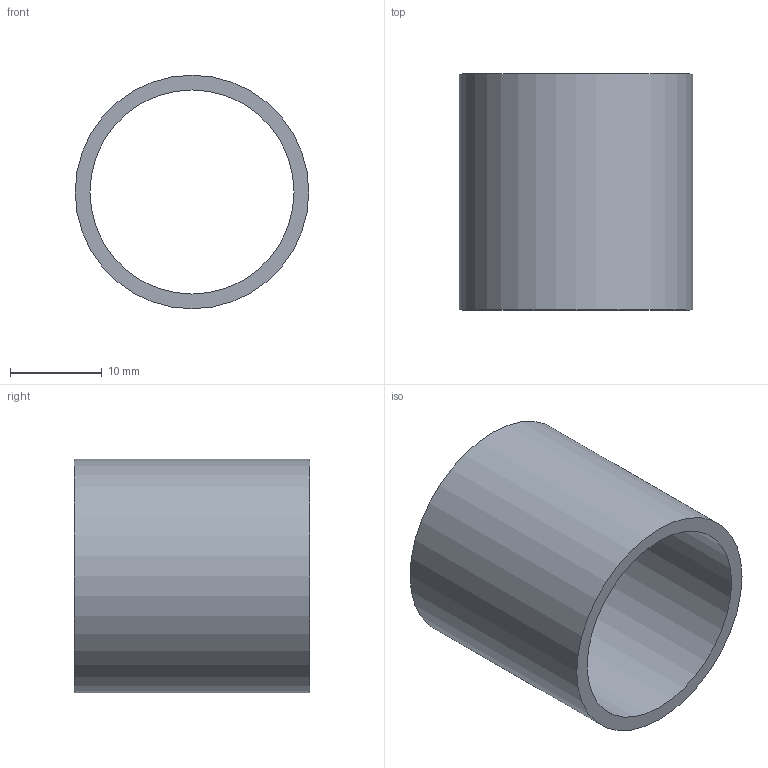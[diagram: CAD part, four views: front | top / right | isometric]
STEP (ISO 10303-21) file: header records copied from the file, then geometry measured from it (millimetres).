
FILE_DESCRIPTION(/* description */ (''),/* implementation_level */ '2;1');
FILE_NAME(/* name */ '6061-RND-100-063-IMPERIAL.step',/* time_stamp */ '2025-08-05T15:11:26-07:00',/* author */ (''),/* organization */ (''),/* preprocessor_version */ 'ST-DEVELOPER v20.1',/* originating_system */ 'Autodesk Translation Framework v14.10.0.0',/* authorisation */ '');
FILE_SCHEMA (('AUTOMOTIVE_DESIGN { 1 0 10303 214 3 1 1 }'));
Length unit declared in the file: inch
Products named in the file (1): (Unsaved)
Bounding box: 25.4 x 25.65 x 25.4 mm (x, y, z)
Volume: 3069.4 mm3; surface area: 4075.6 mm2
Topology: 1 solids, 1 shells, 4 faces, 6 edges, 4 vertices
Faces by surface type: cylinder 2, plane 2
Full cylindrical faces by diameter (mm): 22.2 x1, 25.4 x1
Entity records: 133 total; most frequent: DIRECTION 20, CARTESIAN_POINT 15, ORIENTED_EDGE 12, AXIS2_PLACEMENT_3D 9, EDGE_LOOP 6, EDGE_CURVE 6, FACE_OUTER_BOUND 4, CIRCLE 4
